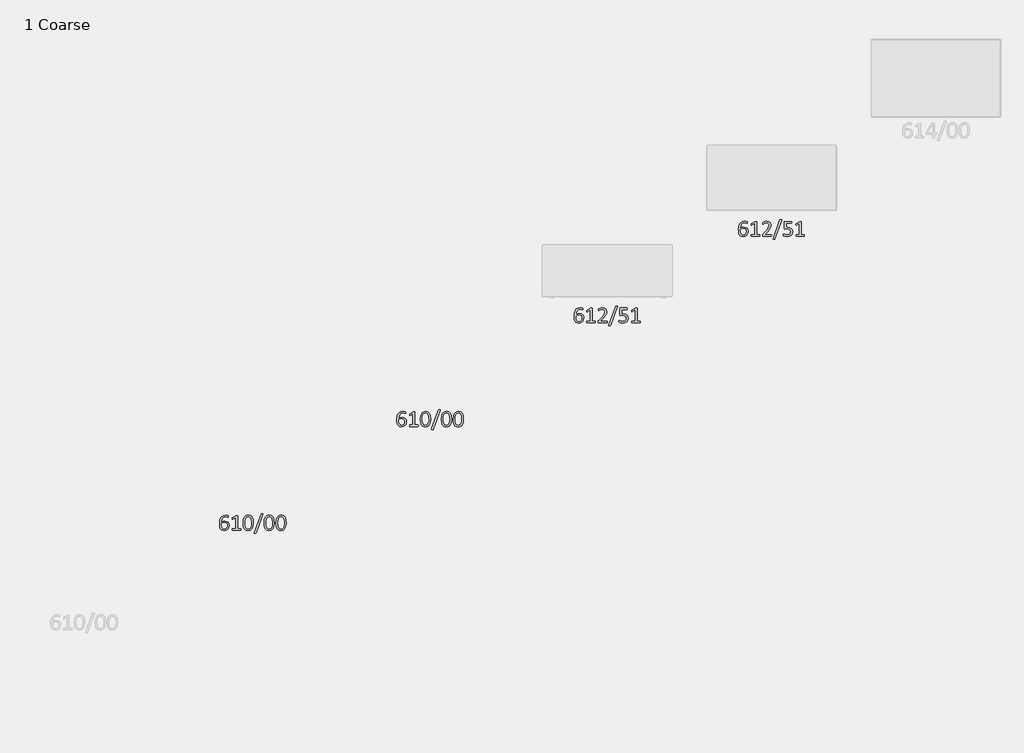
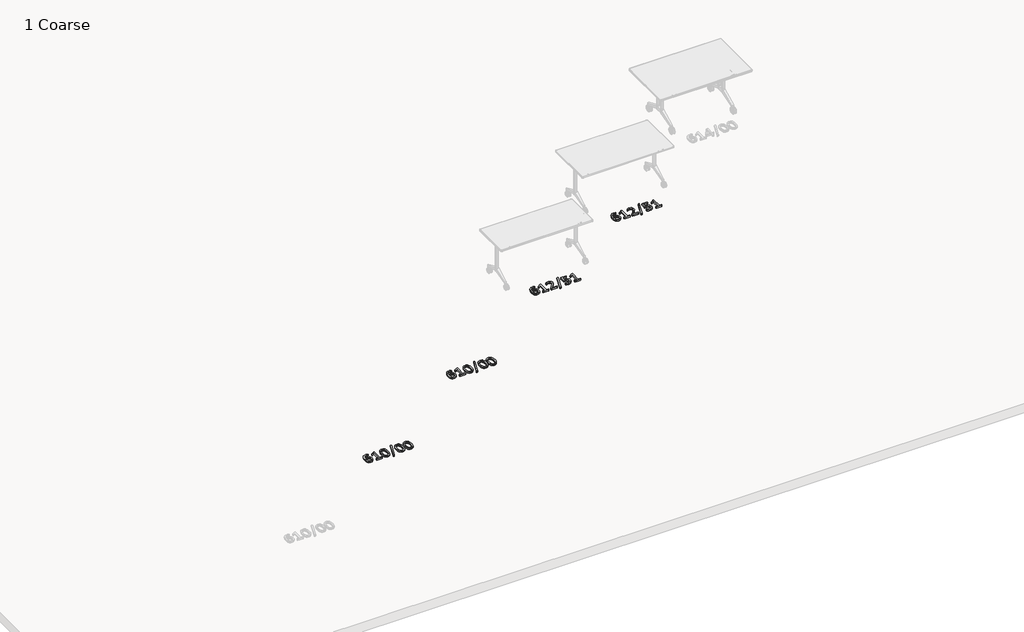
# One storey, part 2 of 3: 4 proxies.
"""IFC4 building model written with IfcOpenShell, lengths in millimetres."""

from ifc_helpers import new_model, si_unit, origin, origin_with_axes, place, context, project, spatial, polyline, outline, extrude, element, save

model = new_model("IFC4")

# Units and contexts
model_context = context("Model", 3, world=origin())
ifc_project = project(units=[si_unit("LENGTHUNIT", "METRE", prefix="MILLI")], contexts=[model_context])

# Site, building, storey
site = spatial("IfcSite", under=ifc_project)
building = spatial("IfcBuilding", under=site)
storey = spatial("IfcBuildingStorey", under=building, Name="1 Coarse", Elevation=0.0)

# Proxies
placement = place(None, origin())
element("IfcBuildingElementProxy", 1, Name="200mm Arial", ObjectType="200mm Arial", at=placement, inside=storey, context=model_context, shape_type="SweptSolid", body=[
    extrude(outline(polyline([(8053.4943741, -5613.0322854), (8050.0876118, -5634.9329001), (8039.5855626, -5653.5548264), (8021.6040052, -5666.4646624), (7995.9124069, -5671.3314657), (7977.1624069, -5668.6675313), (7962.9974478, -5661.0855641), (7952.982079, -5648.9954001), (7946.5527757, -5632.6275723), (7943.0691692, -5612.5199903), (7942.0189642, -5589.1081051), (7943.1716282, -5566.7720395), (7947.3212183, -5544.948269), (7955.4154806, -5525.1992936), (7968.1972429, -5509.113228), (7986.6142511, -5498.278187), (8011.5886364, -5494.2822854), (8021.2710134, -5494.8201952), (8030.3386364, -5496.2546214), (8037.3314642, -5498.2269575), (8041.0712183, -5499.9687608), (8042.4288003, -5501.403187), (8043.1460134, -5503.068146), (8043.5302347, -5505.1173264), (8043.6583085, -5507.9093346), (8043.5814642, -5511.7515477), (8043.0691692, -5514.4923264), (8041.9165052, -5516.0548264), (8040.0722429, -5516.5671214), (8036.2044151, -5515.6449903), (8030.2874069, -5513.6214247), (8021.8601528, -5511.5978592), (8010.3591282, -5510.675728), (7989.7648659, -5515.9011378), (7975.6767511, -5529.9380231), (7967.5824888, -5550.3785969), (7964.5599478, -5574.2003182), (7972.2187593, -5570.2300313), (7981.5425298, -5566.6951952), (7992.1982675, -5564.1337198), (8004.2628167, -5563.1347444), (8027.4185544, -5566.925728), (8042.6849478, -5577.4277772), (8051.0097429, -5593.2576952), (8053.4943741, -5613.0322854)]), holes=[polyline([(8030.5435544, -5613.698269), (8029.0322839, -5599.5845395), (8024.0117921, -5588.7751133), (8014.6111773, -5581.9359739), (8000.1132265, -5579.528187), (7990.4564642, -5580.3990887), (7981.107079, -5582.8068755), (7972.4749069, -5586.4185559), (7964.9697839, -5590.9011378), (7967.1214232, -5619.8714247), (7973.397038, -5638.5701952), (7983.6429396, -5648.6367936), (7998.0128167, -5651.6593346), (8012.5107675, -5648.4318755), (8022.7054396, -5639.7740887), (8028.6480626, -5627.5814657), (8030.5435544, -5613.698269)])]), origin_with_axes(), (0.0, 0.0, 1.0), 25.0),
    extrude(outline(polyline([(8187.9206036, -5658.3704001), (8187.5363823, -5662.9298264), (8186.4861773, -5665.9267526), (8184.9749069, -5667.5660969), (8183.2074888, -5668.0527772), (8094.2730626, -5668.0527772), (8092.5824888, -5667.5660969), (8091.0712183, -5665.9267526), (8089.9441692, -5662.9298264), (8089.5599478, -5658.3704001), (8089.9441692, -5653.9390477), (8090.9175298, -5650.8652772), (8092.3263413, -5649.0210149), (8094.1706036, -5648.380646), (8128.9042101, -5648.380646), (8128.9042101, -5520.5117936), (8097.2956036, -5540.1839247), (8093.4277757, -5541.7464247), (8091.0712183, -5541.1572854), (8089.8673249, -5538.3652772), (8089.5599478, -5533.4728592), (8089.7392511, -5529.7331051), (8090.3027757, -5527.1460149), (8091.3785954, -5525.3273674), (8093.2484724, -5523.7904821), (8131.00462, -5499.0978592), (8134.3601528, -5497.97081), (8137.152161, -5497.6378182), (8141.1480626, -5497.5609739), (8146.5015462, -5497.8171214), (8149.8314642, -5498.5343346), (8151.4451937, -5499.7126133), (8151.4451937, -5648.380646), (8183.1050298, -5648.380646), (8185.1029806, -5649.0210149), (8186.6398659, -5650.8652772), (8187.5876118, -5653.9390477), (8187.9206036, -5658.3704001)])), origin_with_axes(), (0.0, 0.0, 1.0), 25.0),
    extrude(outline(polyline([(8325.6255216, -5658.0630231), (8325.2925298, -5662.3919165), (8324.3960134, -5665.5425313), (8322.8591282, -5667.4380231), (8320.7074888, -5668.0527772), (8228.084538, -5668.0527772), (8224.9339232, -5667.5917116), (8222.6029806, -5666.0548264), (8221.1685544, -5662.9554411), (8220.7074888, -5658.0117936), (8220.9124069, -5653.2986788), (8221.7833085, -5649.738228), (8223.4738823, -5646.6388428), (8226.1378167, -5643.3601542), (8260.0517511, -5607.7044165), (8278.8785954, -5586.1111788), (8289.8417101, -5568.7187608), (8294.9134314, -5554.4769575), (8296.1173249, -5542.4380231), (8294.2218331, -5531.4749083), (8288.7402757, -5522.4072854), (8279.749497, -5516.2341296), (8267.3263413, -5513.9544165), (8252.5722429, -5516.0292116), (8241.0712183, -5520.5117936), (8232.8232675, -5524.9943755), (8227.87962, -5527.0691706), (8226.214661, -5526.5568755), (8225.0107675, -5524.9175313), (8224.2679396, -5521.8949903), (8223.9861773, -5517.3355641), (8224.1142511, -5514.0824903), (8224.5753167, -5511.6747034), (8225.4206036, -5509.8048264), (8227.5210134, -5507.6019575), (8232.9513413, -5503.9902772), (8242.6081036, -5499.5076952), (8255.4410954, -5495.7935559), (8270.1439642, -5494.2822854), (8291.6603577, -5497.7915067), (8306.9779806, -5507.3970395), (8316.0712183, -5521.5619985), (8319.0681446, -5538.7494985), (8317.6081036, -5554.9636378), (8311.4349478, -5572.4072854), (8297.8078987, -5593.28331), (8274.1910954, -5619.743351), (8246.936997, -5648.380646), (8320.5025708, -5648.380646), (8322.5517511, -5648.9954001), (8324.2423249, -5650.8140477), (8325.2925298, -5653.8365887), (8325.6255216, -5658.0630231)])), origin_with_axes(), (0.0, 0.0, 1.0), 25.0),
    extrude(outline(polyline([(8364.0988823, -5698.8929411), (8362.6900708, -5701.5568755), (8360.5384314, -5703.068146), (8357.3109724, -5703.8622034), (8352.6747019, -5704.118351), (8347.2187593, -5703.6572854), (8343.8632265, -5702.3509329), (8342.4288003, -5700.2505231), (8342.9410954, -5697.3048264), (8422.3468331, -5479.8355641), (8423.7556446, -5477.1716296), (8425.8560544, -5475.6091296), (8429.0578987, -5474.8150723), (8433.7710134, -5474.6101542), (8439.1501118, -5475.0712198), (8442.4288003, -5476.3263428), (8443.8888413, -5478.4267526), (8443.50462, -5481.4236788), (8364.0988823, -5698.8929411)])), origin_with_axes(), (0.0, 0.0, 1.0), 25.0),
    extrude(outline(polyline([(8568.2484724, -5614.7740887), (8563.6122019, -5638.8263428), (8550.4974478, -5656.5773674), (8530.3130216, -5667.5660969), (8504.2628167, -5671.3314657), (8489.1757265, -5670.2044165), (8476.4708085, -5667.4124083), (8467.3263413, -5664.1593346), (8462.7669151, -5661.6234739), (8461.3837183, -5659.8816706), (8460.6408905, -5657.9605641), (8460.1798249, -5655.1173264), (8460.0517511, -5650.993351), (8460.2566692, -5646.9462198), (8460.999497, -5644.0261378), (8462.2802347, -5642.3611788), (8463.9451937, -5641.823269), (8468.0947839, -5643.3601542), (8475.6767511, -5646.6900723), (8487.4851528, -5650.0712198), (8504.2115872, -5651.6593346), (8520.7331036, -5649.5845395), (8533.6685544, -5643.0527772), (8542.1982675, -5631.8847444), (8545.2976528, -5615.5425313), (8542.7105626, -5601.2494985), (8534.7699888, -5590.9523674), (8521.1941692, -5584.8304411), (8501.5476528, -5582.8068755), (8487.6388413, -5583.6009329), (8476.8038003, -5584.3949903), (8471.4759314, -5582.6788018), (8469.8878167, -5576.0445805), (8469.8878167, -5506.1675313), (8471.936997, -5499.6869985), (8477.8283905, -5497.5609739), (8553.3919151, -5497.5609739), (8555.4410954, -5498.1501133), (8557.0804396, -5499.9175313), (8558.0794151, -5502.9400723), (8558.4124069, -5507.243351), (8557.1572839, -5514.6204001), (8553.6480626, -5517.2331051), (8492.8386364, -5517.2331051), (8492.8386364, -5567.3355641), (8501.8294151, -5566.5415067), (8512.4083085, -5566.4134329), (8536.7679396, -5569.8714247), (8554.1347429, -5579.630646), (8564.6624069, -5594.8970395), (8568.2484724, -5614.7740887)])), origin_with_axes(), (0.0, 0.0, 1.0), 25.0),
    extrude(outline(polyline([(8705.9533905, -5658.3704001), (8705.5691692, -5662.9298264), (8704.5189642, -5665.9267526), (8703.0076937, -5667.5660969), (8701.2402757, -5668.0527772), (8612.3058495, -5668.0527772), (8610.6152757, -5667.5660969), (8609.1040052, -5665.9267526), (8607.976956, -5662.9298264), (8607.5927347, -5658.3704001), (8607.976956, -5653.9390477), (8608.9503167, -5650.8652772), (8610.3591282, -5649.0210149), (8612.2033905, -5648.380646), (8646.936997, -5648.380646), (8646.936997, -5520.5117936), (8615.3283905, -5540.1839247), (8611.4605626, -5541.7464247), (8609.1040052, -5541.1572854), (8607.9001118, -5538.3652772), (8607.5927347, -5533.4728592), (8607.772038, -5529.7331051), (8608.3355626, -5527.1460149), (8609.4113823, -5525.3273674), (8611.2812593, -5523.7904821), (8649.0374069, -5499.0978592), (8652.3929396, -5497.97081), (8655.1849478, -5497.6378182), (8659.1808495, -5497.5609739), (8664.5343331, -5497.8171214), (8667.8642511, -5498.5343346), (8669.4779806, -5499.7126133), (8669.4779806, -5648.380646), (8701.1378167, -5648.380646), (8703.1357675, -5649.0210149), (8704.6726528, -5650.8652772), (8705.6203987, -5653.9390477), (8705.9533905, -5658.3704001)])), origin_with_axes(), (0.0, 0.0, 1.0), 25.0),
])
element("IfcBuildingElementProxy", 2, Name="200mm Arial", ObjectType="200mm Arial", at=placement, inside=storey, context=model_context, shape_type="SweptSolid", body=[
    extrude(outline(polyline([(3953.4943741, -8013.0322854), (3950.0876118, -8034.9329001), (3939.5855626, -8053.5548264), (3921.6040052, -8066.4646624), (3895.9124069, -8071.3314657), (3877.1624069, -8068.6675313), (3862.9974478, -8061.0855641), (3852.982079, -8048.9954001), (3846.5527757, -8032.6275723), (3843.0691692, -8012.5199903), (3842.0189642, -7989.1081051), (3843.1716282, -7966.7720395), (3847.3212183, -7944.948269), (3855.4154806, -7925.1992936), (3868.1972429, -7909.113228), (3886.6142511, -7898.278187), (3911.5886364, -7894.2822854), (3921.2710134, -7894.8201952), (3930.3386364, -7896.2546214), (3937.3314642, -7898.2269575), (3941.0712183, -7899.9687608), (3942.4288003, -7901.403187), (3943.1460134, -7903.068146), (3943.5302347, -7905.1173264), (3943.6583085, -7907.9093346), (3943.5814642, -7911.7515477), (3943.0691692, -7914.4923264), (3941.9165052, -7916.0548264), (3940.0722429, -7916.5671214), (3936.2044151, -7915.6449903), (3930.2874069, -7913.6214247), (3921.8601528, -7911.5978592), (3910.3591282, -7910.675728), (3889.7648659, -7915.9011378), (3875.6767511, -7929.9380231), (3867.5824888, -7950.3785969), (3864.5599478, -7974.2003182), (3872.2187593, -7970.2300313), (3881.5425298, -7966.6951952), (3892.1982675, -7964.1337198), (3904.2628167, -7963.1347444), (3927.4185544, -7966.925728), (3942.6849478, -7977.4277772), (3951.0097429, -7993.2576952), (3953.4943741, -8013.0322854)]), holes=[polyline([(3930.5435544, -8013.698269), (3929.0322839, -7999.5845395), (3924.0117921, -7988.7751133), (3914.6111773, -7981.9359739), (3900.1132265, -7979.528187), (3890.4564642, -7980.3990887), (3881.107079, -7982.8068755), (3872.4749069, -7986.4185559), (3864.9697839, -7990.9011378), (3867.1214232, -8019.8714247), (3873.397038, -8038.5701952), (3883.6429396, -8048.6367936), (3898.0128167, -8051.6593346), (3912.5107675, -8048.4318755), (3922.7054396, -8039.7740887), (3928.6480626, -8027.5814657), (3930.5435544, -8013.698269)])]), origin_with_axes(), (0.0, 0.0, 1.0), 25.0),
    extrude(outline(polyline([(4087.9206036, -8058.3704001), (4087.5363823, -8062.9298264), (4086.4861773, -8065.9267526), (4084.9749069, -8067.5660969), (4083.2074888, -8068.0527772), (3994.2730626, -8068.0527772), (3992.5824888, -8067.5660969), (3991.0712183, -8065.9267526), (3989.9441692, -8062.9298264), (3989.5599478, -8058.3704001), (3989.9441692, -8053.9390477), (3990.9175298, -8050.8652772), (3992.3263413, -8049.0210149), (3994.1706036, -8048.380646), (4028.9042101, -8048.380646), (4028.9042101, -7920.5117936), (3997.2956036, -7940.1839247), (3993.4277757, -7941.7464247), (3991.0712183, -7941.1572854), (3989.8673249, -7938.3652772), (3989.5599478, -7933.4728592), (3989.7392511, -7929.7331051), (3990.3027757, -7927.1460149), (3991.3785954, -7925.3273674), (3993.2484724, -7923.7904821), (4031.00462, -7899.0978592), (4034.3601528, -7897.97081), (4037.152161, -7897.6378182), (4041.1480626, -7897.5609739), (4046.5015462, -7897.8171214), (4049.8314642, -7898.5343346), (4051.4451937, -7899.7126133), (4051.4451937, -8048.380646), (4083.1050298, -8048.380646), (4085.1029806, -8049.0210149), (4086.6398659, -8050.8652772), (4087.5876118, -8053.9390477), (4087.9206036, -8058.3704001)])), origin_with_axes(), (0.0, 0.0, 1.0), 25.0),
    extrude(outline(polyline([(4232.1828987, -7982.3970395), (4229.0835134, -8018.5650723), (4218.7863823, -8046.6644575), (4210.4872019, -8057.0960661), (4199.9851528, -8064.8765477), (4187.0304909, -8069.7177362), (4171.3734724, -8071.3314657), (4156.5553372, -8069.8842321), (4144.2730626, -8065.5425313), (4134.334538, -8058.3960149), (4126.5476528, -8048.5343346), (4116.9933495, -8020.8960149), (4114.1501118, -7983.2167116), (4117.3263413, -7947.1255231), (4127.6234724, -7918.9492936), (4135.8650196, -7908.517685), (4146.3478577, -7900.7372034), (4159.2640974, -7895.8960149), (4174.8058495, -7894.2822854), (4189.7392511, -7895.729519), (4202.0599478, -7900.0712198), (4211.9984724, -7907.2177362), (4219.7853577, -7917.0794165), (4229.339661, -7944.7177362), (4232.1828987, -7982.3970395)]), holes=[polyline([(4209.232079, -7983.9851542), (4208.3099478, -7961.1624083), (4205.5947839, -7943.3089247), (4200.9328987, -7930.0148674), (4194.0937593, -7920.8447854), (4185.0005216, -7915.5937608), (4173.4738823, -7913.9544165), (4155.1593331, -7919.2054411), (4144.0681446, -7933.6265477), (4138.5609724, -7955.1173264), (4137.1009314, -7981.6285969), (4139.0988823, -8013.9544165), (4145.4001118, -8035.675728), (4156.414456, -8047.868351), (4172.7054396, -8051.6593346), (4185.794579, -8049.3027772), (4195.5025708, -8042.5404821), (4202.1880216, -8031.9872034), (4206.4400708, -8018.3601542), (4208.6429396, -8002.1460149), (4209.232079, -7983.9851542)])]), origin_with_axes(), (0.0, 0.0, 1.0), 25.0),
    extrude(outline(polyline([(4264.0988823, -8098.8929411), (4262.6900708, -8101.5568755), (4260.5384314, -8103.068146), (4257.3109724, -8103.8622034), (4252.6747019, -8104.118351), (4247.2187593, -8103.6572854), (4243.8632265, -8102.3509329), (4242.4288003, -8100.2505231), (4242.9410954, -8097.3048264), (4322.3468331, -7879.8355641), (4323.7556446, -7877.1716296), (4325.8560544, -7875.6091296), (4329.0578987, -7874.8150723), (4333.7710134, -7874.6101542), (4339.1501118, -7875.0712198), (4342.4288003, -7876.3263428), (4343.8888413, -7878.4267526), (4343.50462, -7881.4236788), (4264.0988823, -8098.8929411)])), origin_with_axes(), (0.0, 0.0, 1.0), 25.0),
    extrude(outline(polyline([(4474.8058495, -7982.3970395), (4471.7064642, -8018.5650723), (4461.4093331, -8046.6644575), (4453.1101528, -8057.0960661), (4442.6081036, -8064.8765477), (4429.6534417, -8069.7177362), (4413.9964232, -8071.3314657), (4399.178288, -8069.8842321), (4386.8960134, -8065.5425313), (4376.9574888, -8058.3960149), (4369.1706036, -8048.5343346), (4359.6163003, -8020.8960149), (4356.7730626, -7983.2167116), (4359.9492921, -7947.1255231), (4370.2464232, -7918.9492936), (4378.4879704, -7908.517685), (4388.9708085, -7900.7372034), (4401.8870482, -7895.8960149), (4417.4288003, -7894.2822854), (4432.3622019, -7895.729519), (4444.6828987, -7900.0712198), (4454.6214232, -7907.2177362), (4462.4083085, -7917.0794165), (4471.9626118, -7944.7177362), (4474.8058495, -7982.3970395)]), holes=[polyline([(4451.8550298, -7983.9851542), (4450.9328987, -7961.1624083), (4448.2177347, -7943.3089247), (4443.5558495, -7930.0148674), (4436.7167101, -7920.8447854), (4427.6234724, -7915.5937608), (4416.0968331, -7913.9544165), (4397.7822839, -7919.2054411), (4386.6910954, -7933.6265477), (4381.1839232, -7955.1173264), (4379.7238823, -7981.6285969), (4381.7218331, -8013.9544165), (4388.0230626, -8035.675728), (4399.0374069, -8047.868351), (4415.3283905, -8051.6593346), (4428.4175298, -8049.3027772), (4438.1255216, -8042.5404821), (4444.8109724, -8031.9872034), (4449.0630216, -8018.3601542), (4451.2658905, -8002.1460149), (4451.8550298, -7983.9851542)])]), origin_with_axes(), (0.0, 0.0, 1.0), 25.0),
    extrude(outline(polyline([(4612.5107675, -7982.3970395), (4609.4113823, -8018.5650723), (4599.1142511, -8046.6644575), (4590.8150708, -8057.0960661), (4580.3130216, -8064.8765477), (4567.3583597, -8069.7177362), (4551.7013413, -8071.3314657), (4536.883206, -8069.8842321), (4524.6009314, -8065.5425313), (4514.6624069, -8058.3960149), (4506.8755216, -8048.5343346), (4497.3212183, -8020.8960149), (4494.4779806, -7983.2167116), (4497.6542101, -7947.1255231), (4507.9513413, -7918.9492936), (4516.1928884, -7908.517685), (4526.6757265, -7900.7372034), (4539.5919663, -7895.8960149), (4555.1337183, -7894.2822854), (4570.06712, -7895.729519), (4582.3878167, -7900.0712198), (4592.3263413, -7907.2177362), (4600.1132265, -7917.0794165), (4609.6675298, -7944.7177362), (4612.5107675, -7982.3970395)]), holes=[polyline([(4589.5599478, -7983.9851542), (4588.6378167, -7961.1624083), (4585.9226528, -7943.3089247), (4581.2607675, -7930.0148674), (4574.4216282, -7920.8447854), (4565.3283905, -7915.5937608), (4553.8017511, -7913.9544165), (4535.4872019, -7919.2054411), (4524.3960134, -7933.6265477), (4518.8888413, -7955.1173264), (4517.4288003, -7981.6285969), (4519.4267511, -8013.9544165), (4525.7279806, -8035.675728), (4536.7423249, -8047.868351), (4553.0333085, -8051.6593346), (4566.1224478, -8049.3027772), (4575.8304396, -8042.5404821), (4582.5158905, -8031.9872034), (4586.7679396, -8018.3601542), (4588.9708085, -8002.1460149), (4589.5599478, -7983.9851542)])]), origin_with_axes(), (0.0, 0.0, 1.0), 25.0),
])
element("IfcBuildingElementProxy", 3, Name="200mm Arial", ObjectType="200mm Arial", at=placement, inside=storey, context=model_context, shape_type="SweptSolid", body=[
    extrude(outline(polyline([(6003.4943741, -6813.0322854), (6000.0876118, -6834.9329001), (5989.5855626, -6853.5548264), (5971.6040052, -6866.4646624), (5945.9124069, -6871.3314657), (5927.1624069, -6868.6675313), (5912.9974478, -6861.0855641), (5902.982079, -6848.9954001), (5896.5527757, -6832.6275723), (5893.0691692, -6812.5199903), (5892.0189642, -6789.1081051), (5893.1716282, -6766.7720395), (5897.3212183, -6744.948269), (5905.4154806, -6725.1992936), (5918.1972429, -6709.113228), (5936.6142511, -6698.278187), (5961.5886364, -6694.2822854), (5971.2710134, -6694.8201952), (5980.3386364, -6696.2546214), (5987.3314642, -6698.2269575), (5991.0712183, -6699.9687608), (5992.4288003, -6701.403187), (5993.1460134, -6703.068146), (5993.5302347, -6705.1173264), (5993.6583085, -6707.9093346), (5993.5814642, -6711.7515477), (5993.0691692, -6714.4923264), (5991.9165052, -6716.0548264), (5990.0722429, -6716.5671214), (5986.2044151, -6715.6449903), (5980.2874069, -6713.6214247), (5971.8601528, -6711.5978592), (5960.3591282, -6710.675728), (5939.7648659, -6715.9011378), (5925.6767511, -6729.9380231), (5917.5824888, -6750.3785969), (5914.5599478, -6774.2003182), (5922.2187593, -6770.2300313), (5931.5425298, -6766.6951952), (5942.1982675, -6764.1337198), (5954.2628167, -6763.1347444), (5977.4185544, -6766.925728), (5992.6849478, -6777.4277772), (6001.0097429, -6793.2576952), (6003.4943741, -6813.0322854)]), holes=[polyline([(5980.5435544, -6813.698269), (5979.0322839, -6799.5845395), (5974.0117921, -6788.7751133), (5964.6111773, -6781.9359739), (5950.1132265, -6779.528187), (5940.4564642, -6780.3990887), (5931.107079, -6782.8068755), (5922.4749069, -6786.4185559), (5914.9697839, -6790.9011378), (5917.1214232, -6819.8714247), (5923.397038, -6838.5701952), (5933.6429396, -6848.6367936), (5948.0128167, -6851.6593346), (5962.5107675, -6848.4318755), (5972.7054396, -6839.7740887), (5978.6480626, -6827.5814657), (5980.5435544, -6813.698269)])]), origin_with_axes(), (0.0, 0.0, 1.0), 25.0),
    extrude(outline(polyline([(6137.9206036, -6858.3704001), (6137.5363823, -6862.9298264), (6136.4861773, -6865.9267526), (6134.9749069, -6867.5660969), (6133.2074888, -6868.0527772), (6044.2730626, -6868.0527772), (6042.5824888, -6867.5660969), (6041.0712183, -6865.9267526), (6039.9441692, -6862.9298264), (6039.5599478, -6858.3704001), (6039.9441692, -6853.9390477), (6040.9175298, -6850.8652772), (6042.3263413, -6849.0210149), (6044.1706036, -6848.380646), (6078.9042101, -6848.380646), (6078.9042101, -6720.5117936), (6047.2956036, -6740.1839247), (6043.4277757, -6741.7464247), (6041.0712183, -6741.1572854), (6039.8673249, -6738.3652772), (6039.5599478, -6733.4728592), (6039.7392511, -6729.7331051), (6040.3027757, -6727.1460149), (6041.3785954, -6725.3273674), (6043.2484724, -6723.7904821), (6081.00462, -6699.0978592), (6084.3601528, -6697.97081), (6087.152161, -6697.6378182), (6091.1480626, -6697.5609739), (6096.5015462, -6697.8171214), (6099.8314642, -6698.5343346), (6101.4451937, -6699.7126133), (6101.4451937, -6848.380646), (6133.1050298, -6848.380646), (6135.1029806, -6849.0210149), (6136.6398659, -6850.8652772), (6137.5876118, -6853.9390477), (6137.9206036, -6858.3704001)])), origin_with_axes(), (0.0, 0.0, 1.0), 25.0),
    extrude(outline(polyline([(6282.1828987, -6782.3970395), (6279.0835134, -6818.5650723), (6268.7863823, -6846.6644575), (6260.4872019, -6857.0960661), (6249.9851528, -6864.8765477), (6237.0304909, -6869.7177362), (6221.3734724, -6871.3314657), (6206.5553372, -6869.8842321), (6194.2730626, -6865.5425313), (6184.334538, -6858.3960149), (6176.5476528, -6848.5343346), (6166.9933495, -6820.8960149), (6164.1501118, -6783.2167116), (6167.3263413, -6747.1255231), (6177.6234724, -6718.9492936), (6185.8650196, -6708.517685), (6196.3478577, -6700.7372034), (6209.2640974, -6695.8960149), (6224.8058495, -6694.2822854), (6239.7392511, -6695.729519), (6252.0599478, -6700.0712198), (6261.9984724, -6707.2177362), (6269.7853577, -6717.0794165), (6279.339661, -6744.7177362), (6282.1828987, -6782.3970395)]), holes=[polyline([(6259.232079, -6783.9851542), (6258.3099478, -6761.1624083), (6255.5947839, -6743.3089247), (6250.9328987, -6730.0148674), (6244.0937593, -6720.8447854), (6235.0005216, -6715.5937608), (6223.4738823, -6713.9544165), (6205.1593331, -6719.2054411), (6194.0681446, -6733.6265477), (6188.5609724, -6755.1173264), (6187.1009314, -6781.6285969), (6189.0988823, -6813.9544165), (6195.4001118, -6835.675728), (6206.414456, -6847.868351), (6222.7054396, -6851.6593346), (6235.794579, -6849.3027772), (6245.5025708, -6842.5404821), (6252.1880216, -6831.9872034), (6256.4400708, -6818.3601542), (6258.6429396, -6802.1460149), (6259.232079, -6783.9851542)])]), origin_with_axes(), (0.0, 0.0, 1.0), 25.0),
    extrude(outline(polyline([(6314.0988823, -6898.8929411), (6312.6900708, -6901.5568755), (6310.5384314, -6903.068146), (6307.3109724, -6903.8622034), (6302.6747019, -6904.118351), (6297.2187593, -6903.6572854), (6293.8632265, -6902.3509329), (6292.4288003, -6900.2505231), (6292.9410954, -6897.3048264), (6372.3468331, -6679.8355641), (6373.7556446, -6677.1716296), (6375.8560544, -6675.6091296), (6379.0578987, -6674.8150723), (6383.7710134, -6674.6101542), (6389.1501118, -6675.0712198), (6392.4288003, -6676.3263428), (6393.8888413, -6678.4267526), (6393.50462, -6681.4236788), (6314.0988823, -6898.8929411)])), origin_with_axes(), (0.0, 0.0, 1.0), 25.0),
    extrude(outline(polyline([(6524.8058495, -6782.3970395), (6521.7064642, -6818.5650723), (6511.4093331, -6846.6644575), (6503.1101528, -6857.0960661), (6492.6081036, -6864.8765477), (6479.6534417, -6869.7177362), (6463.9964232, -6871.3314657), (6449.178288, -6869.8842321), (6436.8960134, -6865.5425313), (6426.9574888, -6858.3960149), (6419.1706036, -6848.5343346), (6409.6163003, -6820.8960149), (6406.7730626, -6783.2167116), (6409.9492921, -6747.1255231), (6420.2464232, -6718.9492936), (6428.4879704, -6708.517685), (6438.9708085, -6700.7372034), (6451.8870482, -6695.8960149), (6467.4288003, -6694.2822854), (6482.3622019, -6695.729519), (6494.6828987, -6700.0712198), (6504.6214232, -6707.2177362), (6512.4083085, -6717.0794165), (6521.9626118, -6744.7177362), (6524.8058495, -6782.3970395)]), holes=[polyline([(6501.8550298, -6783.9851542), (6500.9328987, -6761.1624083), (6498.2177347, -6743.3089247), (6493.5558495, -6730.0148674), (6486.7167101, -6720.8447854), (6477.6234724, -6715.5937608), (6466.0968331, -6713.9544165), (6447.7822839, -6719.2054411), (6436.6910954, -6733.6265477), (6431.1839232, -6755.1173264), (6429.7238823, -6781.6285969), (6431.7218331, -6813.9544165), (6438.0230626, -6835.675728), (6449.0374069, -6847.868351), (6465.3283905, -6851.6593346), (6478.4175298, -6849.3027772), (6488.1255216, -6842.5404821), (6494.8109724, -6831.9872034), (6499.0630216, -6818.3601542), (6501.2658905, -6802.1460149), (6501.8550298, -6783.9851542)])]), origin_with_axes(), (0.0, 0.0, 1.0), 25.0),
    extrude(outline(polyline([(6662.5107675, -6782.3970395), (6659.4113823, -6818.5650723), (6649.1142511, -6846.6644575), (6640.8150708, -6857.0960661), (6630.3130216, -6864.8765477), (6617.3583597, -6869.7177362), (6601.7013413, -6871.3314657), (6586.883206, -6869.8842321), (6574.6009314, -6865.5425313), (6564.6624069, -6858.3960149), (6556.8755216, -6848.5343346), (6547.3212183, -6820.8960149), (6544.4779806, -6783.2167116), (6547.6542101, -6747.1255231), (6557.9513413, -6718.9492936), (6566.1928884, -6708.517685), (6576.6757265, -6700.7372034), (6589.5919663, -6695.8960149), (6605.1337183, -6694.2822854), (6620.06712, -6695.729519), (6632.3878167, -6700.0712198), (6642.3263413, -6707.2177362), (6650.1132265, -6717.0794165), (6659.6675298, -6744.7177362), (6662.5107675, -6782.3970395)]), holes=[polyline([(6639.5599478, -6783.9851542), (6638.6378167, -6761.1624083), (6635.9226528, -6743.3089247), (6631.2607675, -6730.0148674), (6624.4216282, -6720.8447854), (6615.3283905, -6715.5937608), (6603.8017511, -6713.9544165), (6585.4872019, -6719.2054411), (6574.3960134, -6733.6265477), (6568.8888413, -6755.1173264), (6567.4288003, -6781.6285969), (6569.4267511, -6813.9544165), (6575.7279806, -6835.675728), (6586.7423249, -6847.868351), (6603.0333085, -6851.6593346), (6616.1224478, -6849.3027772), (6625.8304396, -6842.5404821), (6632.5158905, -6831.9872034), (6636.7679396, -6818.3601542), (6638.9708085, -6802.1460149), (6639.5599478, -6783.9851542)])]), origin_with_axes(), (0.0, 0.0, 1.0), 25.0),
])
element("IfcBuildingElementProxy", 4, Name="200mm Arial", ObjectType="200mm Arial", at=placement, inside=storey, context=model_context, shape_type="SweptSolid", body=[
    extrude(outline(polyline([(9953.4943741, -4613.0322854), (9950.0876118, -4634.9329001), (9939.5855626, -4653.5548264), (9921.6040052, -4666.4646624), (9895.9124069, -4671.3314657), (9877.1624069, -4668.6675313), (9862.9974478, -4661.0855641), (9852.982079, -4648.9954001), (9846.5527757, -4632.6275723), (9843.0691692, -4612.5199903), (9842.0189642, -4589.1081051), (9843.1716282, -4566.7720395), (9847.3212183, -4544.948269), (9855.4154806, -4525.1992936), (9868.1972429, -4509.113228), (9886.6142511, -4498.278187), (9911.5886364, -4494.2822854), (9921.2710134, -4494.8201952), (9930.3386364, -4496.2546214), (9937.3314642, -4498.2269575), (9941.0712183, -4499.9687608), (9942.4288003, -4501.403187), (9943.1460134, -4503.068146), (9943.5302347, -4505.1173264), (9943.6583085, -4507.9093346), (9943.5814642, -4511.7515477), (9943.0691692, -4514.4923264), (9941.9165052, -4516.0548264), (9940.0722429, -4516.5671214), (9936.2044151, -4515.6449903), (9930.2874069, -4513.6214247), (9921.8601528, -4511.5978592), (9910.3591282, -4510.675728), (9889.7648659, -4515.9011378), (9875.6767511, -4529.9380231), (9867.5824888, -4550.3785969), (9864.5599478, -4574.2003182), (9872.2187593, -4570.2300313), (9881.5425298, -4566.6951952), (9892.1982675, -4564.1337198), (9904.2628167, -4563.1347444), (9927.4185544, -4566.925728), (9942.6849478, -4577.4277772), (9951.0097429, -4593.2576952), (9953.4943741, -4613.0322854)]), holes=[polyline([(9930.5435544, -4613.698269), (9929.0322839, -4599.5845395), (9924.0117921, -4588.7751133), (9914.6111773, -4581.9359739), (9900.1132265, -4579.528187), (9890.4564642, -4580.3990887), (9881.107079, -4582.8068755), (9872.4749069, -4586.4185559), (9864.9697839, -4590.9011378), (9867.1214232, -4619.8714247), (9873.397038, -4638.5701952), (9883.6429396, -4648.6367936), (9898.0128167, -4651.6593346), (9912.5107675, -4648.4318755), (9922.7054396, -4639.7740887), (9928.6480626, -4627.5814657), (9930.5435544, -4613.698269)])]), origin_with_axes(), (0.0, 0.0, 1.0), 25.0),
    extrude(outline(polyline([(10087.9206036, -4658.3704001), (10087.5363823, -4662.9298264), (10086.4861773, -4665.9267526), (10084.9749069, -4667.5660969), (10083.2074888, -4668.0527772), (9994.2730626, -4668.0527772), (9992.5824888, -4667.5660969), (9991.0712183, -4665.9267526), (9989.9441692, -4662.9298264), (9989.5599478, -4658.3704001), (9989.9441692, -4653.9390477), (9990.9175298, -4650.8652772), (9992.3263413, -4649.0210149), (9994.1706036, -4648.380646), (10028.9042101, -4648.380646), (10028.9042101, -4520.5117936), (9997.2956036, -4540.1839247), (9993.4277757, -4541.7464247), (9991.0712183, -4541.1572854), (9989.8673249, -4538.3652772), (9989.5599478, -4533.4728592), (9989.7392511, -4529.7331051), (9990.3027757, -4527.1460149), (9991.3785954, -4525.3273674), (9993.2484724, -4523.7904821), (10031.00462, -4499.0978592), (10034.3601528, -4497.97081), (10037.152161, -4497.6378182), (10041.1480626, -4497.5609739), (10046.5015462, -4497.8171214), (10049.8314642, -4498.5343346), (10051.4451937, -4499.7126133), (10051.4451937, -4648.380646), (10083.1050298, -4648.380646), (10085.1029806, -4649.0210149), (10086.6398659, -4650.8652772), (10087.5876118, -4653.9390477), (10087.9206036, -4658.3704001)])), origin_with_axes(), (0.0, 0.0, 1.0), 25.0),
    extrude(outline(polyline([(10225.6255216, -4658.0630231), (10225.2925298, -4662.3919165), (10224.3960134, -4665.5425313), (10222.8591282, -4667.4380231), (10220.7074888, -4668.0527772), (10128.084538, -4668.0527772), (10124.9339232, -4667.5917116), (10122.6029806, -4666.0548264), (10121.1685544, -4662.9554411), (10120.7074888, -4658.0117936), (10120.9124069, -4653.2986788), (10121.7833085, -4649.738228), (10123.4738823, -4646.6388428), (10126.1378167, -4643.3601542), (10160.0517511, -4607.7044165), (10178.8785954, -4586.1111788), (10189.8417101, -4568.7187608), (10194.9134314, -4554.4769575), (10196.1173249, -4542.4380231), (10194.2218331, -4531.4749083), (10188.7402757, -4522.4072854), (10179.749497, -4516.2341296), (10167.3263413, -4513.9544165), (10152.5722429, -4516.0292116), (10141.0712183, -4520.5117936), (10132.8232675, -4524.9943755), (10127.87962, -4527.0691706), (10126.214661, -4526.5568755), (10125.0107675, -4524.9175313), (10124.2679396, -4521.8949903), (10123.9861773, -4517.3355641), (10124.1142511, -4514.0824903), (10124.5753167, -4511.6747034), (10125.4206036, -4509.8048264), (10127.5210134, -4507.6019575), (10132.9513413, -4503.9902772), (10142.6081036, -4499.5076952), (10155.4410954, -4495.7935559), (10170.1439642, -4494.2822854), (10191.6603577, -4497.7915067), (10206.9779806, -4507.3970395), (10216.0712183, -4521.5619985), (10219.0681446, -4538.7494985), (10217.6081036, -4554.9636378), (10211.4349478, -4572.4072854), (10197.8078987, -4593.28331), (10174.1910954, -4619.743351), (10146.936997, -4648.380646), (10220.5025708, -4648.380646), (10222.5517511, -4648.9954001), (10224.2423249, -4650.8140477), (10225.2925298, -4653.8365887), (10225.6255216, -4658.0630231)])), origin_with_axes(), (0.0, 0.0, 1.0), 25.0),
    extrude(outline(polyline([(10264.0988823, -4698.8929411), (10262.6900708, -4701.5568755), (10260.5384314, -4703.068146), (10257.3109724, -4703.8622034), (10252.6747019, -4704.118351), (10247.2187593, -4703.6572854), (10243.8632265, -4702.3509329), (10242.4288003, -4700.2505231), (10242.9410954, -4697.3048264), (10322.3468331, -4479.8355641), (10323.7556446, -4477.1716296), (10325.8560544, -4475.6091296), (10329.0578987, -4474.8150723), (10333.7710134, -4474.6101542), (10339.1501118, -4475.0712198), (10342.4288003, -4476.3263428), (10343.8888413, -4478.4267526), (10343.50462, -4481.4236788), (10264.0988823, -4698.8929411)])), origin_with_axes(), (0.0, 0.0, 1.0), 25.0),
    extrude(outline(polyline([(10468.2484724, -4614.7740887), (10463.6122019, -4638.8263428), (10450.4974478, -4656.5773674), (10430.3130216, -4667.5660969), (10404.2628167, -4671.3314657), (10389.1757265, -4670.2044165), (10376.4708085, -4667.4124083), (10367.3263413, -4664.1593346), (10362.7669151, -4661.6234739), (10361.3837183, -4659.8816706), (10360.6408905, -4657.9605641), (10360.1798249, -4655.1173264), (10360.0517511, -4650.993351), (10360.2566692, -4646.9462198), (10360.999497, -4644.0261378), (10362.2802347, -4642.3611788), (10363.9451937, -4641.823269), (10368.0947839, -4643.3601542), (10375.6767511, -4646.6900723), (10387.4851528, -4650.0712198), (10404.2115872, -4651.6593346), (10420.7331036, -4649.5845395), (10433.6685544, -4643.0527772), (10442.1982675, -4631.8847444), (10445.2976528, -4615.5425313), (10442.7105626, -4601.2494985), (10434.7699888, -4590.9523674), (10421.1941692, -4584.8304411), (10401.5476528, -4582.8068755), (10387.6388413, -4583.6009329), (10376.8038003, -4584.3949903), (10371.4759314, -4582.6788018), (10369.8878167, -4576.0445805), (10369.8878167, -4506.1675313), (10371.936997, -4499.6869985), (10377.8283905, -4497.5609739), (10453.3919151, -4497.5609739), (10455.4410954, -4498.1501133), (10457.0804396, -4499.9175313), (10458.0794151, -4502.9400723), (10458.4124069, -4507.243351), (10457.1572839, -4514.6204001), (10453.6480626, -4517.2331051), (10392.8386364, -4517.2331051), (10392.8386364, -4567.3355641), (10401.8294151, -4566.5415067), (10412.4083085, -4566.4134329), (10436.7679396, -4569.8714247), (10454.1347429, -4579.630646), (10464.6624069, -4594.8970395), (10468.2484724, -4614.7740887)])), origin_with_axes(), (0.0, 0.0, 1.0), 25.0),
    extrude(outline(polyline([(10605.9533905, -4658.3704001), (10605.5691692, -4662.9298264), (10604.5189642, -4665.9267526), (10603.0076937, -4667.5660969), (10601.2402757, -4668.0527772), (10512.3058495, -4668.0527772), (10510.6152757, -4667.5660969), (10509.1040052, -4665.9267526), (10507.976956, -4662.9298264), (10507.5927347, -4658.3704001), (10507.976956, -4653.9390477), (10508.9503167, -4650.8652772), (10510.3591282, -4649.0210149), (10512.2033905, -4648.380646), (10546.936997, -4648.380646), (10546.936997, -4520.5117936), (10515.3283905, -4540.1839247), (10511.4605626, -4541.7464247), (10509.1040052, -4541.1572854), (10507.9001118, -4538.3652772), (10507.5927347, -4533.4728592), (10507.772038, -4529.7331051), (10508.3355626, -4527.1460149), (10509.4113823, -4525.3273674), (10511.2812593, -4523.7904821), (10549.0374069, -4499.0978592), (10552.3929396, -4497.97081), (10555.1849478, -4497.6378182), (10559.1808495, -4497.5609739), (10564.5343331, -4497.8171214), (10567.8642511, -4498.5343346), (10569.4779806, -4499.7126133), (10569.4779806, -4648.380646), (10601.1378167, -4648.380646), (10603.1357675, -4649.0210149), (10604.6726528, -4650.8652772), (10605.6203987, -4653.9390477), (10605.9533905, -4658.3704001)])), origin_with_axes(), (0.0, 0.0, 1.0), 25.0),
])

save(model, "model.ifc")
